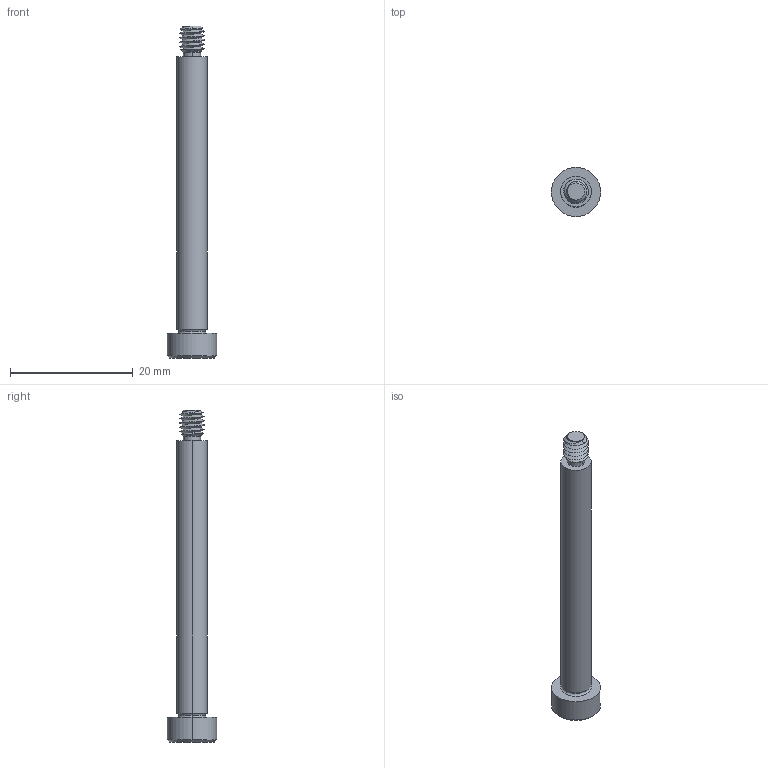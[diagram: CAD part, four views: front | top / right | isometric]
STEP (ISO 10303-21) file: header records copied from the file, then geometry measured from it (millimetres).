
FILE_DESCRIPTION (( 'STEP AP203' ), '1' );
FILE_NAME ('P0130.050-045-B2.step', '2021-11-09T21:18:33', ( '' ), ( '' ), 'SwSTEP 2.0', 'SolidWorks 2019', '' );
FILE_SCHEMA (( 'CONFIG_CONTROL_DESIGN' ));
Length unit declared in the file: millimetre
Products named in the file (1): P0130.050-045-B2
Bounding box: 8 x 8 x 54 mm (x, y, z)
Volume: 1107.7 mm3; surface area: 1022.3 mm2
Topology: 1 solids, 1 shells, 53 faces, 121 edges, 71 vertices
Faces by surface type: cylinder 16, plane 16, cone 15, torus 4, bspline 2
Entity records: 2151 total; most frequent: CARTESIAN_POINT 968, ORIENTED_EDGE 238, DIRECTION 226, EDGE_CURVE 119, AXIS2_PLACEMENT_3D 92, VERTEX_POINT 71, EDGE_LOOP 56, FACE_OUTER_BOUND 53
